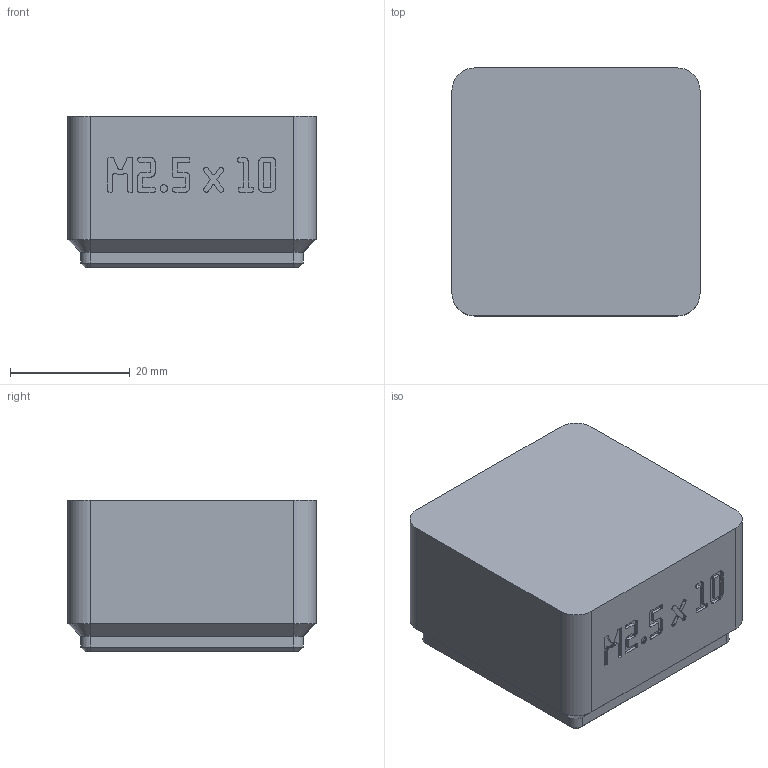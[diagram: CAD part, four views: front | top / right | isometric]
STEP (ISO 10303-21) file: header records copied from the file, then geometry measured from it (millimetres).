
FILE_DESCRIPTION(('Open CASCADE Model'),'2;1');
FILE_NAME('Open CASCADE Shape Model','2026-11-03T16:23:03',('Author'),( 'Open CASCADE'),'Open CASCADE STEP processor 8.0','build123d', 'Unknown');
FILE_SCHEMA(('AUTOMOTIVE_DESIGN { 1 0 10303 214 1 1 1 1 }'));
Products named in the file (1): COMPOUND
Bounding box: 41.5 x 41.5 x 25.4 mm (x, y, z)
Volume: 14669.8 mm3; surface area: 13563 mm2
Topology: 1 solids, 2 shells, 1373 faces, 4016 edges, 2664 vertices
Faces by surface type: plane 1337, cylinder 16, cone 12, bspline 8
Entity records: 96674 total; most frequent: CARTESIAN_POINT 16350, DIRECTION 14680, LINE 11844, VECTOR 11844, ORIENTED_EDGE 8032, PCURVE 8032, DEFINITIONAL_REPRESENTATION 8032, EDGE_CURVE 4016
